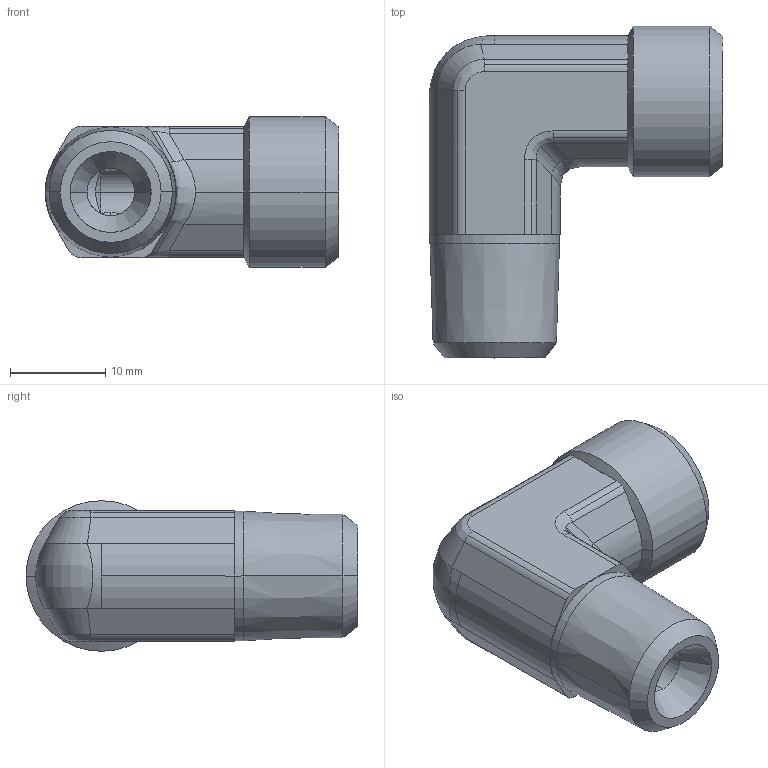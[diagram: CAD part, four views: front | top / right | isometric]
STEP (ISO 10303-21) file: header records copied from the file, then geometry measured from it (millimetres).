
FILE_DESCRIPTION((''),'2;1');
FILE_NAME('102015.stp','2007-10-30T16:28:12',(''),(''),'AutoCAD STEP 2000i','AutoCAD 2000i',', , ');
FILE_SCHEMA(('CONFIG_CONTROL_DESIGN'));
Length unit declared in the file: millimetre
Products named in the file (2): 102015.0; 3090#0
Assembly tree (1 placements, depth 2):
  102015.0
    3090#0
Bounding box: 30.9 x 34.92 x 15.85 mm (x, y, z)
Volume: 6758.2 mm3; surface area: 3386.5 mm2
Topology: 1 solids, 1 shells, 101 faces, 232 edges, 135 vertices
Faces by surface type: cylinder 44, plane 22, cone 21, bspline 14
Entity records: 3698 total; most frequent: CARTESIAN_POINT 1304, DIRECTION 513, ORIENTED_EDGE 464, EDGE_CURVE 232, AXIS2_PLACEMENT_3D 212, VERTEX_POINT 135, CIRCLE 105, EDGE_LOOP 105
